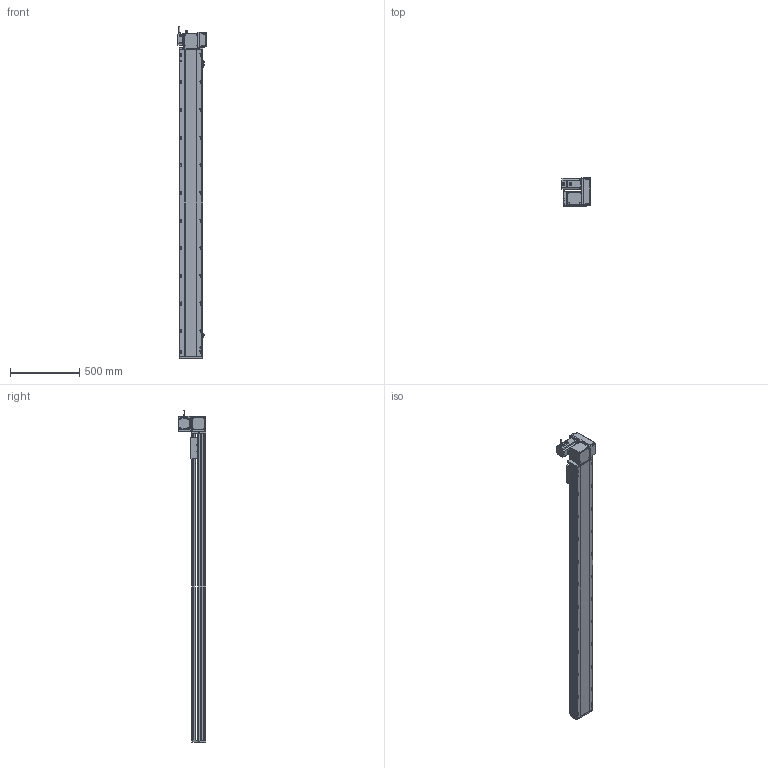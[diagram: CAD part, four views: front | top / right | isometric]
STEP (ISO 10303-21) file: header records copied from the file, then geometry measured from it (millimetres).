
FILE_DESCRIPTION (( 'STEP AP214' ), '1' );
FILE_NAME ('RTB17S-XX-1950-RW-M75-C4.STEP', '2025-12-12T02:41:48', ( '' ), ( '' ), 'SwSTEP 2.0', 'SolidWorks 2018', '' );
FILE_SCHEMA (( 'AUTOMOTIVE_DESIGN' ));
Length unit declared in the file: millimetre
Products named in the file (15): RTB17-R-011菁釱^RTB17S-XX-XX-RW-M75-C4; EE672^RTB17S-XX-XX-RW-M75-C4; RTB22S-GY-008-M75--萇儂啣^RTB17S-RW-々湍釱蚾饜-750W_RTB17S-XX-XX-RW-M75-C4; RTB22S-GY-005P^RTB17S-RW-々湍釱蚾饜-750W_RTB17S-XX-XX-RW-M75-C4; RTB22S-GY-018P^RTB17S-RW-々湍釱蚾饜-750W_RTB17S-XX-XX-RW-M75-C4; RMP17S-L-014-T20-P75--々湍釱^RTB17S-RW-々湍釱蚾饜-750W_RTB17S-XX-XX-RW-M75-C4; RTB17S-L-007奻裔^RTB17S-XX-XX-RW-M75-C4; RTH13-BL-012覜茼え俋离^RTB17S-賑釱_RTB17S-XX-XX-RW-M75-C4; 750W萇儂^RTB17S-XX-XX-RW-M75-C4; RTB17S-L-001-耜醱啣^RTB17S-XX-XX-RW-M75-C4; RTB22S-GY-017P^RTB17S-RW-々湍釱蚾饜-750W_RTB17S-XX-XX-RW-M75-C4; RTB17S-RW-々湍釱蚾饜-750W^RTB17S-XX-XX-RW-M75-C4; RTB17S-XX-1950-RW-M75-C4; RTB17S-賑釱^RTB17S-XX-XX-RW-M75-C4; RTB17S-L-004-賑釱^RTB17S-賑釱_RTB17S-XX-XX-RW-M75-C4
Assembly tree (17 placements, depth 3):
  RTB17S-XX-1950-RW-M75-C4
    RTB17-R-011菁釱^RTB17S-XX-XX-RW-M75-C4
    EE672^RTB17S-XX-XX-RW-M75-C4  x3
    RTB17S-L-001-耜醱啣^RTB17S-XX-XX-RW-M75-C4
    RTB17S-賑釱^RTB17S-XX-XX-RW-M75-C4
      RTB17S-L-004-賑釱^RTB17S-賑釱_RTB17S-XX-XX-RW-M75-C4
      RTH13-BL-012覜茼え俋离^RTB17S-賑釱_RTB17S-XX-XX-RW-M75-C4
    RTB17S-L-007奻裔^RTB17S-XX-XX-RW-M75-C4
    750W萇儂^RTB17S-XX-XX-RW-M75-C4
    RTB17S-RW-々湍釱蚾饜-750W^RTB17S-XX-XX-RW-M75-C4
      RMP17S-L-014-T20-P75--々湍釱^RTB17S-RW-々湍釱蚾饜-750W_RTB17S-XX-XX-RW-M75-C4
      RTB22S-GY-005P^RTB17S-RW-々湍釱蚾饜-750W_RTB17S-XX-XX-RW-M75-C4
      RTB22S-GY-017P^RTB17S-RW-々湍釱蚾饜-750W_RTB17S-XX-XX-RW-M75-C4  x2
      RTB22S-GY-008-M75--萇儂啣^RTB17S-RW-々湍釱蚾饜-750W_RTB17S-XX-XX-RW-M75-C4
      RTB22S-GY-018P^RTB17S-RW-々湍釱蚾饜-750W_RTB17S-XX-XX-RW-M75-C4
Bounding box: 207.4 x 201.5 x 2402.2 mm (x, y, z)
Volume: 18139740 mm3; surface area: 3237831.8 mm2
Topology: 17 solids, 17 shells, 2169 faces, 6052 edges, 3914 vertices
Faces by surface type: plane 980, cylinder 773, bspline 294, cone 110, sphere 8, torus 4
Entity records: 61942 total; most frequent: CARTESIAN_POINT 18316, ORIENTED_EDGE 8948, DIRECTION 8312, EDGE_CURVE 4474, AXIS2_PLACEMENT_3D 2934, VERTEX_POINT 2918, LINE 2444, VECTOR 2444
